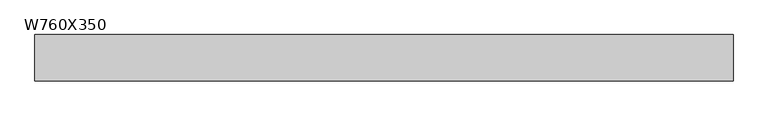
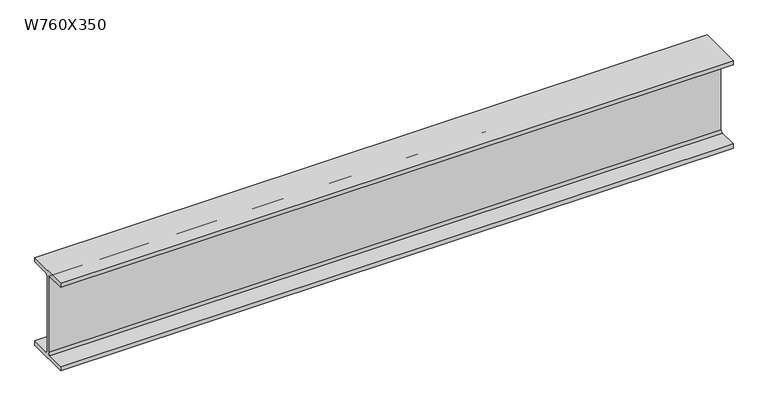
"""IFC4 building model written with IfcOpenShell, lengths in millimetres: beam geometry, M_W Shapes : W760X350."""

import ifcopenshell
import ifcopenshell.guid

model = None  # the IFC model being written
_history = None  # IfcOwnerHistory: only IFC2X3 demands one
_inside = {}  # id of a spatial element -> (the spatial element, [elements in it])
_under = {}  # id of a project, library or spatial element -> (it, [spatial elements below it])
_declared = {}  # id of a project -> (the project, [libraries it declares])
_typed = {}  # id of a type object -> (the type object, [elements of that type])
_made_of = {}  # id of a material, layer set ... -> (it, [elements and type objects made of it])


def new_model(schema):
    """Start an empty IFC model of exactly this schema.

    Asked for "IFC4X3", IfcOpenShell would pick the latest addendum, in which some entities
    have other attributes; the version numbers below select the first issue.
    IFC2X3 requires an IfcOwnerHistory on every rooted entity: one is made here for all.
    """
    global model, _history
    if schema == "IFC4X3":
        model = ifcopenshell.file(schema_version=(4, 3, 0, 0))
    else:
        model = ifcopenshell.file(schema=schema)
    _inside.clear()
    _under.clear()
    _declared.clear()
    _typed.clear()
    _made_of.clear()
    _history = None
    if model.schema == "IFC2X3":
        org = make("IfcOrganization", Name="unknown")
        user = make(
            "IfcPersonAndOrganization",
            ThePerson=make("IfcPerson", FamilyName="unknown"),
            TheOrganization=org,
        )
        app = make(
            "IfcApplication",
            ApplicationDeveloper=org,
            Version="unknown",
            ApplicationFullName="unknown",
            ApplicationIdentifier="unknown",
        )
        _history = make(
            "IfcOwnerHistory",
            OwningUser=user,
            OwningApplication=app,
            ChangeAction="ADDED",
            CreationDate=0,
        )
    return model


def make(cls, **values):
    """One entity of the class cls with the attributes given. An attribute that is None is left unset."""
    return model.create_entity(
        cls, **{name: value for name, value in values.items() if value is not None}
    )


def rooted(cls, **values):
    """An entity with a GlobalId (a new one), such as an element, a storey or a relation."""
    return make(cls, GlobalId=ifcopenshell.guid.new(), OwnerHistory=_history, **values)


def si_unit(unit_type, name, prefix=None):
    """IfcSIUnit, for example si_unit("LENGTHUNIT", "METRE", prefix="MILLI")."""
    return make("IfcSIUnit", UnitType=unit_type, Prefix=prefix, Name=name)


def assignment(units):
    """IfcUnitAssignment: the units of a project."""
    return None if units is None else make("IfcUnitAssignment", Units=units)


def point(xyz):
    """IfcCartesianPoint."""
    return None if xyz is None else make("IfcCartesianPoint", Coordinates=xyz)


def direction(xyz):
    """IfcDirection."""
    return None if xyz is None else make("IfcDirection", DirectionRatios=xyz)


def frame(location, z_axis=None, x_axis=None):
    """IfcAxis2Placement3D, a coordinate frame: its origin and axes. An axis left out is left unset."""
    return make(
        "IfcAxis2Placement3D",
        Location=point(location),
        Axis=direction(z_axis),
        RefDirection=direction(x_axis),
    )


def frame_2d(location, x_axis=None):
    """IfcAxis2Placement2D, a coordinate frame in the plane: its origin and x axis."""
    return make(
        "IfcAxis2Placement2D", Location=point(location), RefDirection=direction(x_axis)
    )


def origin():
    """The frame at (0, 0, 0) with its axes left unset."""
    return frame((0.0, 0.0, 0.0))


def place(relative_to, where):
    """IfcLocalPlacement: puts the frame where relative to a parent placement (None: the world)."""
    return make(
        "IfcLocalPlacement", PlacementRelTo=relative_to, RelativePlacement=where
    )


def context(
    kind, dimensions, precision=None, world=None, true_north=None, identifier=None
):
    """IfcGeometricRepresentationContext, for example the 3D "Model" context."""
    return make(
        "IfcGeometricRepresentationContext",
        ContextIdentifier=identifier,
        ContextType=kind,
        CoordinateSpaceDimension=dimensions,
        Precision=precision,
        WorldCoordinateSystem=world,
        TrueNorth=true_north,
    )


def project(units=None, contexts=None):
    """IfcProject with its units and contexts."""
    return rooted(
        "IfcProject",
        Name="project",
        RepresentationContexts=contexts,
        UnitsInContext=assignment(units),
    )


def spatial(cls, under=None, at=None, **own):
    """A site, building, storey or space (cls), placed at a placement, below another one or the project."""
    s = rooted(cls, ObjectPlacement=at, **own)
    if under is not None:
        _under.setdefault(under.id(), (under, []))[1].append(s)
    return s


def polyline(points):
    """IfcPolyline through the points."""
    return make("IfcPolyline", Points=[point(p) for p in points])


def circle_curve(where, radius):
    """IfcCircle in the frame where."""
    return make("IfcCircle", Position=where, Radius=radius)


def trimmed(basis, trim1, trim2, sense, master):
    """IfcTrimmedCurve: the piece of a basis curve between two trims."""
    return make(
        "IfcTrimmedCurve",
        BasisCurve=basis,
        Trim1=trim1,
        Trim2=trim2,
        SenseAgreement=sense,
        MasterRepresentation=master,
    )


def segment(curve, same_sense, transition):
    """IfcCompositeCurveSegment."""
    return make(
        "IfcCompositeCurveSegment",
        Transition=transition,
        SameSense=same_sense,
        ParentCurve=curve,
    )


def composite_curve(segments, self_intersect=None):
    """IfcCompositeCurve: segments joined end to end."""
    return make("IfcCompositeCurve", Segments=segments, SelfIntersect=self_intersect)


def outline(outer, holes=None, kind="AREA"):
    """IfcArbitraryClosedProfileDef: a profile drawn as a closed curve; with holes, ...WithVoids."""
    if holes is None:
        return make("IfcArbitraryClosedProfileDef", ProfileType=kind, OuterCurve=outer)
    return make(
        "IfcArbitraryProfileDefWithVoids",
        ProfileType=kind,
        OuterCurve=outer,
        InnerCurves=holes,
    )


def extrude(swept, where, along, depth):
    """IfcExtrudedAreaSolid: the profile swept, set in the frame where, extruded along a direction by depth."""
    return make(
        "IfcExtrudedAreaSolid",
        SweptArea=swept,
        Position=where,
        ExtrudedDirection=direction(along),
        Depth=depth,
    )


def shape(context_of_items, identifier, shape_type, items):
    """IfcShapeRepresentation: the items that make up one representation, for example the "Body"."""
    return make(
        "IfcShapeRepresentation",
        ContextOfItems=context_of_items,
        RepresentationIdentifier=identifier,
        RepresentationType=shape_type,
        Items=items,
    )


def source(mapping_origin, context_of_items, identifier, shape_type, items):
    """IfcRepresentationMap: a shape defined once, which mapped items show again and again."""
    return make(
        "IfcRepresentationMap",
        MappingOrigin=mapping_origin,
        MappedRepresentation=shape(context_of_items, identifier, shape_type, items),
    )


def transform(
    local_origin,
    x_axis=None,
    y_axis=None,
    z_axis=None,
    scale=None,
    scale2=None,
    scale3=None,
    uniform=True,
):
    """IfcCartesianTransformationOperator3D, or its non-uniform kind. x_axis, y_axis, z_axis: its Axis1, 2, 3."""
    if uniform:
        return make(
            "IfcCartesianTransformationOperator3D",
            Axis1=direction(x_axis),
            Axis2=direction(y_axis),
            LocalOrigin=point(local_origin),
            Scale=scale,
            Axis3=direction(z_axis),
        )
    return make(
        "IfcCartesianTransformationOperator3DnonUniform",
        Axis1=direction(x_axis),
        Axis2=direction(y_axis),
        LocalOrigin=point(local_origin),
        Scale=scale,
        Axis3=direction(z_axis),
        Scale2=scale2,
        Scale3=scale3,
    )


def mapped(mapping_source, mapping_target):
    """IfcMappedItem: shows the shape of a source again, moved by a transform."""
    return make(
        "IfcMappedItem", MappingSource=mapping_source, MappingTarget=mapping_target
    )


def made_of(thing, what):
    """Note that an element or type object is made of a material, layer set ...; save() writes the relation."""
    if what is not None:
        _made_of.setdefault(what.id(), (what, []))[1].append(thing)
    return thing


def element(
    cls,
    number,
    at=None,
    inside=None,
    cuts=None,
    type_object=None,
    material=None,
    context=None,
    identifier="Body",
    shape_type=None,
    held_by="IfcProductDefinitionShape",
    body=None,
    shapes=None,
    **own,
):
    """One element of the class cls, such as IfcWall. Its Tag is "e" and its number.

    at: its placement. inside: the storey or other place that contains it. cuts: it is an
    opening in that element (IfcRelVoidsElement). A single representation is given by context,
    identifier, shape_type and body (its items); several are given by shapes. held_by: the class
    of the entity that holds the representations. save() writes the other relations.
    """
    e = rooted(cls, Tag="e%d" % number, ObjectPlacement=at, **own)
    if body is not None:
        shapes = [shape(context, identifier, shape_type, body)]
    if shapes is not None:
        e.Representation = make(held_by, Representations=shapes)
    if inside is not None:
        _inside.setdefault(inside.id(), (inside, []))[1].append(e)
    if cuts is not None:
        rooted(
            "IfcRelVoidsElement", RelatingBuildingElement=cuts, RelatedOpeningElement=e
        )
    if type_object is not None:
        _typed.setdefault(type_object.id(), (type_object, []))[1].append(e)
    return made_of(e, material)


def aggregate(whole, parts):
    """IfcRelAggregates: a whole, such as a stair, and the parts it consists of."""
    return rooted("IfcRelAggregates", RelatingObject=whole, RelatedObjects=parts)


def save(model, path):
    """Write the relations noted so far, then the file.

    IfcRelAggregates (storeys below a building ...), IfcRelContainedInSpatialStructure (elements
    in a storey), IfcRelDefinesByType, IfcRelAssociatesMaterial and IfcRelDeclares: one each for
    every whole, place, type object, material and project.
    """
    for whole, parts in _under.values():
        aggregate(whole, parts)
    for where, things in _inside.values():
        rooted(
            "IfcRelContainedInSpatialStructure",
            RelatedElements=things,
            RelatingStructure=where,
        )
    for kind, things in _typed.values():
        rooted("IfcRelDefinesByType", RelatedObjects=things, RelatingType=kind)
    for what, things in _made_of.values():
        rooted("IfcRelAssociatesMaterial", RelatedObjects=things, RelatingMaterial=what)
    for by, libraries in _declared.values():
        rooted("IfcRelDeclares", RelatingContext=by, RelatedDefinitions=libraries)
    model.write(path)


def w760x350_ee6cdec3(model_context):
    return source(origin(), model_context, "Body", "SweptSolid", [
        extrude(outline(composite_curve([segment(polyline([(192.0, -359.4), (192.0, -397.5), (-192.0, -397.5), (-192.0, -359.4), (-30.65, -359.4)]), True, "CONTINUOUS"), segment(trimmed(circle_curve(frame_2d((-30.65, -339.3)), 20.1), [point((-30.65, -359.4))], [point((-10.55, -339.3))], True, "CARTESIAN"), True, "CONTINUOUS"), segment(polyline([(-10.55, -339.3), (-10.55, 339.3)]), True, "CONTINUOUS"), segment(trimmed(circle_curve(frame_2d((-30.65, 339.3)), 20.1), [point((-10.55, 339.3))], [point((-30.65, 359.4))], True, "CARTESIAN"), True, "CONTINUOUS"), segment(polyline([(-30.65, 359.4), (-192.0, 359.4), (-192.0, 397.5), (192.0, 397.5), (192.0, 359.4), (30.65, 359.4)]), True, "CONTINUOUS"), segment(trimmed(circle_curve(frame_2d((30.65, 339.3)), 20.1), [point((30.65, 359.4))], [point((10.55, 339.3))], True, "CARTESIAN"), True, "CONTINUOUS"), segment(polyline([(10.55, 339.3), (10.55, -339.3)]), True, "CONTINUOUS"), segment(trimmed(circle_curve(frame_2d((30.65, -339.3)), 20.1), [point((10.55, -339.3))], [point((30.65, -359.4))], True, "CARTESIAN"), True, "CONTINUOUS"), segment(polyline([(30.65, -359.4), (192.0, -359.4)]), True, "CONTINUOUS")], self_intersect=False)), frame((-2889.3, 0.0, 0.0), z_axis=(1.0, 0.0, 0.0), x_axis=(0.0, 1.0, 0.0)), (0.0, 0.0, 1.0), 5778.6),
    ])


if __name__ == "__main__":
    model = new_model("IFC4")
    model_context = context("Model", 3, world=origin())
    ifc_project = project(units=[si_unit("LENGTHUNIT", "METRE", prefix="MILLI")], contexts=[model_context])
    site = spatial("IfcSite", under=ifc_project)
    building = spatial("IfcBuilding", under=site)
    placement = place(None, origin())
    w760x350_shape = w760x350_ee6cdec3(model_context)
    element("IfcBeam", 1, ObjectType="M_W Shapes : W760X350", at=placement, inside=building, context=model_context, shape_type="MappedRepresentation", body=[
        mapped(w760x350_shape, transform((0.0, 0.0, 0.0), x_axis=(1.0, 0.0, 0.0), y_axis=(0.0, 1.0, 0.0), z_axis=(0.0, 0.0, 1.0))),
    ])
    save(model, "model.ifc")
